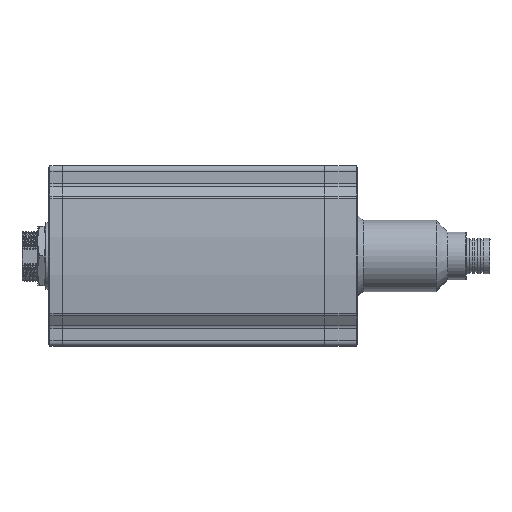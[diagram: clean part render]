
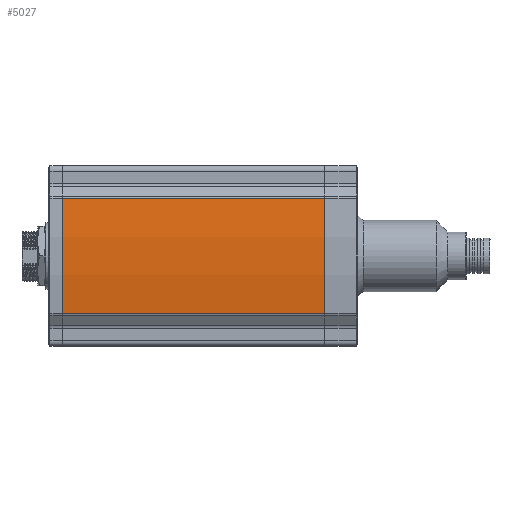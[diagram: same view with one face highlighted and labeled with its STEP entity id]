
A CAD part, front view. The second image highlights one B-rep face of the part: STEP entity #5027.
In plain terms, the highlighted cylindrical face has radius 153.05 mm (diameter 306.1 mm), a partial arc.
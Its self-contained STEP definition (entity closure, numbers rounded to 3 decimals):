
#1301=FACE_OUTER_BOUND('',#7230,.T.);
#2295=LINE('',#63042,#3366);
#2296=LINE('',#63047,#3367);
#3366=VECTOR('',#22719,1.);
#3367=VECTOR('',#22722,1.);
#5027=ADVANCED_FACE('',(#1301),#5472,.T.);
#5472=CYLINDRICAL_SURFACE('',#18313,153.05);
#7230=EDGE_LOOP('',(#11079,#11080,#11081,#11082));
#11079=ORIENTED_EDGE('',*,*,#15304,.T.);
#11080=ORIENTED_EDGE('',*,*,#15305,.F.);
#11081=ORIENTED_EDGE('',*,*,#15306,.F.);
#11082=ORIENTED_EDGE('',*,*,#15307,.T.);
#13171=VERTEX_POINT('',#63043);
#13172=VERTEX_POINT('',#63044);
#13173=VERTEX_POINT('',#63046);
#13174=VERTEX_POINT('',#63048);
#15304=EDGE_CURVE('',#13171,#13172,#2295,.T.);
#15305=EDGE_CURVE('',#13173,#13172,#16428,.T.);
#15306=EDGE_CURVE('',#13174,#13173,#2296,.T.);
#15307=EDGE_CURVE('',#13174,#13171,#16429,.T.);
#16428=CIRCLE('',#18311,153.05);
#16429=CIRCLE('',#18312,153.05);
#18311=AXIS2_PLACEMENT_3D('',#63045,#22720,#22721);
#18312=AXIS2_PLACEMENT_3D('',#63049,#22723,#22724);
#18313=AXIS2_PLACEMENT_3D('',#63050,#22725,#22726);
#22719=DIRECTION('',(1.,0.,0.));
#22720=DIRECTION('',(1.,0.,0.));
#22721=DIRECTION('',(0.,-0.991,0.137));
#22722=DIRECTION('',(1.,0.,0.));
#22723=DIRECTION('',(1.,0.,0.));
#22724=DIRECTION('',(0.,-0.991,0.137));
#22725=DIRECTION('',(1.,0.,0.));
#22726=DIRECTION('',(0.,0.,1.));
#63042=CARTESIAN_POINT('',(-48.,-22.55,-21.021));
#63043=CARTESIAN_POINT('',(-48.,-22.55,-21.021));
#63044=CARTESIAN_POINT('',(48.,-22.55,-21.021));
#63045=CARTESIAN_POINT('',(48.,129.05,0.));
#63046=CARTESIAN_POINT('',(48.,-22.55,21.021));
#63047=CARTESIAN_POINT('',(-48.,-22.55,21.021));
#63048=CARTESIAN_POINT('',(-48.,-22.55,21.021));
#63049=CARTESIAN_POINT('',(-48.,129.05,0.));
#63050=CARTESIAN_POINT('',(-48.,129.05,0.));
